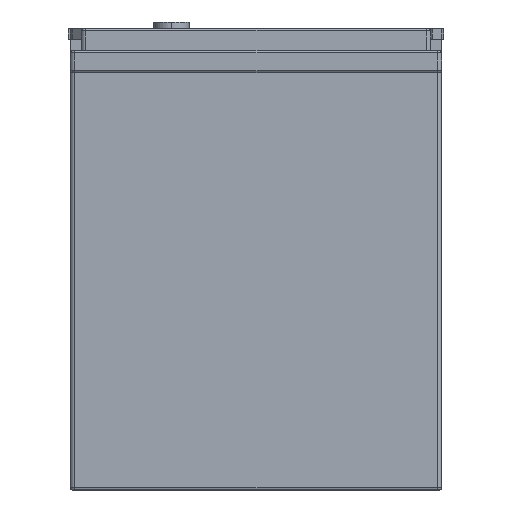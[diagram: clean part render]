
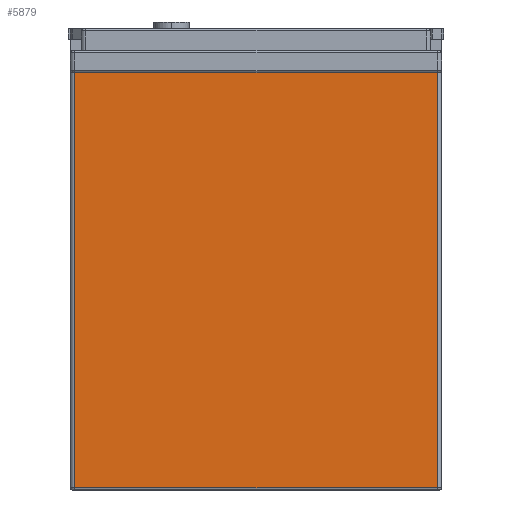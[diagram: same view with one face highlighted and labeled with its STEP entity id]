
A CAD part, left-side view. The second image highlights one B-rep face of the part: STEP entity #5879.
In plain terms, the highlighted planar face has unit normal (-1, 0, 0).
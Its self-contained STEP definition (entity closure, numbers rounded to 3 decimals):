
#102 = EDGE_CURVE ( 'NONE', #8696, #980, #2728, .T. ) ;
#895 = VECTOR ( 'NONE', #9322, 1000. ) ;
#901 = EDGE_CURVE ( 'NONE', #8696, #9398, #4414, .T. ) ;
#980 = VERTEX_POINT ( 'NONE', #3783 ) ;
#1496 = AXIS2_PLACEMENT_3D ( 'NONE', #2741, #3637, #5218 ) ;
#1688 = EDGE_CURVE ( 'NONE', #3949, #980, #5130, .T. ) ;
#1860 = ORIENTED_EDGE ( 'NONE', *, *, #102, .F. ) ;
#2263 = EDGE_CURVE ( 'NONE', #9398, #3949, #5333, .T. ) ;
#2589 = ORIENTED_EDGE ( 'NONE', *, *, #2263, .T. ) ;
#2728 = LINE ( 'NONE', #9064, #7119 ) ;
#2741 = CARTESIAN_POINT ( 'NONE',  ( -152.5, 84.5, 190. ) ) ;
#3036 = ORIENTED_EDGE ( 'NONE', *, *, #901, .T. ) ;
#3495 = ORIENTED_EDGE ( 'NONE', *, *, #1688, .T. ) ;
#3605 = VECTOR ( 'NONE', #4391, 1000. ) ;
#3637 = DIRECTION ( 'NONE',  ( 1., 0., 0. ) ) ;
#3783 = CARTESIAN_POINT ( 'NONE',  ( -152.5, -82.5, 190. ) ) ;
#3893 = EDGE_LOOP ( 'NONE', ( #3036, #2589, #3495, #1860 ) ) ;
#3949 = VERTEX_POINT ( 'NONE', #7005 ) ;
#4282 = CARTESIAN_POINT ( 'NONE',  ( -152.5, -82.5, 190. ) ) ;
#4391 = DIRECTION ( 'NONE',  ( 0., 0., 1. ) ) ;
#4414 = LINE ( 'NONE', #6104, #895 ) ;
#5130 = LINE ( 'NONE', #4282, #3605 ) ;
#5218 = DIRECTION ( 'NONE',  ( 0., 1., 0. ) ) ;
#5333 = LINE ( 'NONE', #10285, #8168 ) ;
#5543 = CARTESIAN_POINT ( 'NONE',  ( -152.5, 82.5, 1. ) ) ;
#5879 = ADVANCED_FACE ( 'NONE', ( #7749 ), #8497, .F. ) ;
#5893 = DIRECTION ( 'NONE',  ( 0., -1., 0. ) ) ;
#6104 = CARTESIAN_POINT ( 'NONE',  ( -152.5, 82.5, 190. ) ) ;
#6183 = CARTESIAN_POINT ( 'NONE',  ( -152.5, 82.5, 190. ) ) ;
#6278 = DIRECTION ( 'NONE',  ( 0., -1., 0. ) ) ;
#7005 = CARTESIAN_POINT ( 'NONE',  ( -152.5, -82.5, 1. ) ) ;
#7119 = VECTOR ( 'NONE', #5893, 1000. ) ;
#7749 = FACE_OUTER_BOUND ( 'NONE', #3893, .T. ) ;
#8168 = VECTOR ( 'NONE', #6278, 1000. ) ;
#8497 = PLANE ( 'NONE',  #1496 ) ;
#8696 = VERTEX_POINT ( 'NONE', #6183 ) ;
#9064 = CARTESIAN_POINT ( 'NONE',  ( -152.5, 84.5, 190. ) ) ;
#9322 = DIRECTION ( 'NONE',  ( 0., 0., -1. ) ) ;
#9398 = VERTEX_POINT ( 'NONE', #5543 ) ;
#10285 = CARTESIAN_POINT ( 'NONE',  ( -152.5, 84.5, 1. ) ) ;
